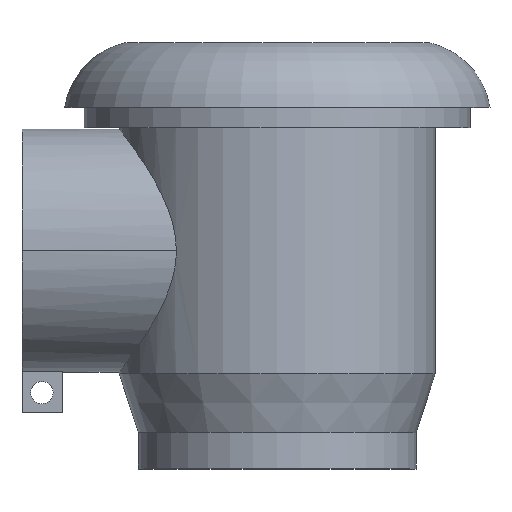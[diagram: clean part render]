
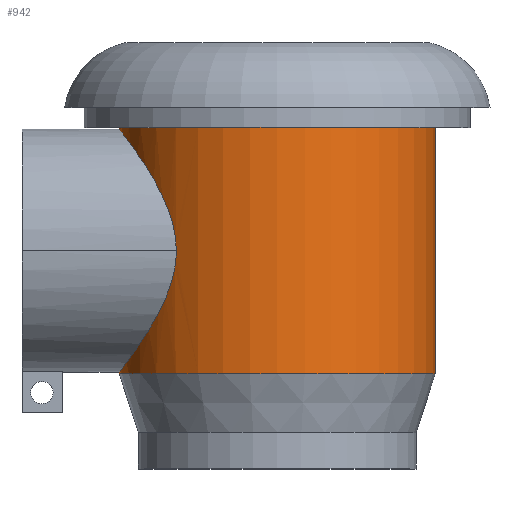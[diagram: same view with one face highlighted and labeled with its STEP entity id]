
A CAD part, top view. The second image highlights one B-rep face of the part: STEP entity #942.
In plain terms, the highlighted cylindrical face has radius 78 mm (diameter 156 mm), a partial arc.
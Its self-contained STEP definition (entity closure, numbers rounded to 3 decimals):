
#175=CARTESIAN_POINT('',(-49.84,0.,
60.));
#176=CARTESIAN_POINT('',(-49.84,0.868,60.));
#177=CARTESIAN_POINT('',(-49.885,2.611,59.962));
#178=CARTESIAN_POINT('',(-50.091,5.238,59.791));
#179=CARTESIAN_POINT('',(-50.438,7.896,59.499));
#180=CARTESIAN_POINT('',(-50.931,10.598,59.078));
#181=CARTESIAN_POINT('',(-51.579,13.375,58.514));
#182=CARTESIAN_POINT('',(-52.392,16.232,57.789));
#183=CARTESIAN_POINT('',(-53.377,19.176,56.882));
#184=CARTESIAN_POINT('',(-54.541,22.211,55.77));
#185=CARTESIAN_POINT('',(-55.875,25.31,54.437));
#186=CARTESIAN_POINT('',(-57.369,28.456,52.863));
#187=CARTESIAN_POINT('',(-58.992,31.598,51.05));
#188=CARTESIAN_POINT('',(-60.711,34.698,48.998));
#189=CARTESIAN_POINT('',(-62.483,37.709,46.721));
#190=CARTESIAN_POINT('',(-64.247,40.562,44.265));
#191=CARTESIAN_POINT('',(-65.969,43.233,41.659));
#192=CARTESIAN_POINT('',(-67.619,45.709,38.925));
#193=CARTESIAN_POINT('',(-69.168,47.969,36.101));
#194=CARTESIAN_POINT('',(-70.601,50.011,33.211));
#195=CARTESIAN_POINT('',(-71.909,51.84,30.274));
#196=CARTESIAN_POINT('',(-73.092,53.468,27.294));
#197=CARTESIAN_POINT('',(-74.143,54.895,24.294));
#198=CARTESIAN_POINT('',(-75.063,56.131,21.279));
#199=CARTESIAN_POINT('',(-75.855,57.185,18.254));
#200=CARTESIAN_POINT('',(-76.524,58.069,15.209));
#201=CARTESIAN_POINT('',(-77.067,58.783,12.158));
#202=CARTESIAN_POINT('',(-77.486,59.331,9.112));
#203=CARTESIAN_POINT('',(-77.783,59.718,6.072));
#204=CARTESIAN_POINT('',(-77.961,59.949,3.03));
#205=CARTESIAN_POINT('',(-78.,60.,1.008));
#206=CARTESIAN_POINT('',(-78.,60.,0.));
#211=CARTESIAN_POINT('',(0.,-60.75,0.));
#212=DIRECTION('',(0.,-1.,0.));
#213=DIRECTION('',(1.,0.,0.));
#214=AXIS2_PLACEMENT_3D('',#211,#212,#213);
#219=CARTESIAN_POINT('',(-78.,-60.,0.));
#220=CARTESIAN_POINT('',(-78.,-60.,1.008));
#221=CARTESIAN_POINT('',(-77.961,-59.949,3.029));
#222=CARTESIAN_POINT('',(-77.783,-59.718,6.072));
#223=CARTESIAN_POINT('',(-77.486,-59.331,9.112));
#224=CARTESIAN_POINT('',(-77.067,-58.783,12.158));
#225=CARTESIAN_POINT('',(-76.524,-58.069,15.209));
#226=CARTESIAN_POINT('',(-75.855,-57.185,18.254));
#227=CARTESIAN_POINT('',(-75.063,-56.131,21.28));
#228=CARTESIAN_POINT('',(-74.143,-54.894,24.294));
#229=CARTESIAN_POINT('',(-73.092,-53.468,27.294));
#230=CARTESIAN_POINT('',(-71.909,-51.84,30.274));
#231=CARTESIAN_POINT('',(-70.601,-50.011,33.212));
#232=CARTESIAN_POINT('',(-69.168,-47.969,36.101));
#233=CARTESIAN_POINT('',(-67.619,-45.709,38.925));
#234=CARTESIAN_POINT('',(-65.968,-43.233,41.659));
#235=CARTESIAN_POINT('',(-64.247,-40.562,44.265));
#236=CARTESIAN_POINT('',(-62.483,-37.708,46.721));
#237=CARTESIAN_POINT('',(-60.711,-34.697,48.998));
#238=CARTESIAN_POINT('',(-58.992,-31.598,51.05));
#239=CARTESIAN_POINT('',(-57.369,-28.456,52.863));
#240=CARTESIAN_POINT('',(-55.875,-25.31,54.437));
#241=CARTESIAN_POINT('',(-54.541,-22.211,55.77));
#242=CARTESIAN_POINT('',(-53.377,-19.177,56.882));
#243=CARTESIAN_POINT('',(-52.392,-16.231,57.789));
#244=CARTESIAN_POINT('',(-51.579,-13.375,58.514));
#245=CARTESIAN_POINT('',(-50.931,-10.598,59.078));
#246=CARTESIAN_POINT('',(-50.438,-7.896,59.499));
#247=CARTESIAN_POINT('',(-50.091,-5.237,59.791));
#248=CARTESIAN_POINT('',(-49.885,-2.61,59.962));
#249=CARTESIAN_POINT('',(-49.84,-0.868,
60.));
#250=CARTESIAN_POINT('',(-49.84,0.,
60.));
#594=DIRECTION('',(0.,1.,0.));
#595=VECTOR('',#594,0.75);
#596=CARTESIAN_POINT('',(-78.,-60.75,0.));
#597=LINE('',#596,#595);
#609=DIRECTION('',(0.,1.,0.));
#610=VECTOR('',#609,121.5);
#611=CARTESIAN_POINT('',(78.,-60.75,0.));
#612=LINE('',#611,#610);
#616=DIRECTION('',(0.,1.,0.));
#617=VECTOR('',#616,0.75);
#618=CARTESIAN_POINT('',(-78.,60.,0.));
#619=LINE('',#618,#617);
#638=CARTESIAN_POINT('',(0.,60.75,0.));
#639=DIRECTION('',(0.,-1.,0.));
#640=DIRECTION('',(1.,0.,0.));
#641=AXIS2_PLACEMENT_3D('',#638,#639,#640);
#786=CARTESIAN_POINT('',(78.,-60.75,0.));
#787=VERTEX_POINT('',#786);
#788=CARTESIAN_POINT('',(78.,60.75,0.));
#789=VERTEX_POINT('',#788);
#802=CARTESIAN_POINT('',(-78.,-60.75,0.));
#803=VERTEX_POINT('',#802);
#812=CARTESIAN_POINT('',(-78.,60.75,0.));
#813=VERTEX_POINT('',#812);
#822=VERTEX_POINT('',#175);
#823=VERTEX_POINT('',#206);
#824=VERTEX_POINT('',#219);
#922=CARTESIAN_POINT('',(0.,123.783,0.));
#923=DIRECTION('',(0.,-1.,0.));
#924=DIRECTION('',(-1.,0.,0.));
#925=AXIS2_PLACEMENT_3D('',#922,#923,#924);
#926=CYLINDRICAL_SURFACE('',#925,78.);
#928=ORIENTED_EDGE('',*,*,#927,.T.);
#930=ORIENTED_EDGE('',*,*,#929,.T.);
#932=ORIENTED_EDGE('',*,*,#931,.F.);
#934=ORIENTED_EDGE('',*,*,#933,.F.);
#935=ORIENTED_EDGE('',*,*,#917,.T.);
#937=ORIENTED_EDGE('',*,*,#936,.T.);
#939=ORIENTED_EDGE('',*,*,#938,.T.);
#940=EDGE_LOOP('',(#928,#930,#932,#934,#935,#937,#939));
#941=FACE_OUTER_BOUND('',#940,.F.);
#207=B_SPLINE_CURVE_WITH_KNOTS('',3,(#175,#176,#177,#178,#179,#180,#181,#182,
#183,#184,#185,#186,#187,#188,#189,#190,#191,#192,#193,#194,#195,#196,#197,#198,
#199,#200,#201,#202,#203,#204,#205,#206),.UNSPECIFIED.,.F.,.F.,(4,1,1,1,1,1,1,1,
1,1,1,1,1,1,1,1,1,1,1,1,1,1,1,1,1,1,1,1,1,4),(0.,0.034,
0.069,0.103,0.138,0.172,
0.207,0.241,0.276,0.31,
0.345,0.379,0.414,0.448,
0.483,0.517,0.552,0.586,
0.621,0.655,0.69,0.724,
0.759,0.793,0.828,0.862,
0.897,0.931,0.966,1.),.UNSPECIFIED.);
#215=CIRCLE('',#214,78.);
#251=B_SPLINE_CURVE_WITH_KNOTS('',3,(#219,#220,#221,#222,#223,#224,#225,#226,
#227,#228,#229,#230,#231,#232,#233,#234,#235,#236,#237,#238,#239,#240,#241,#242,
#243,#244,#245,#246,#247,#248,#249,#250),.UNSPECIFIED.,.F.,.F.,(4,1,1,1,1,1,1,1,
1,1,1,1,1,1,1,1,1,1,1,1,1,1,1,1,1,1,1,1,1,4),(0.,0.034,
0.069,0.103,0.138,0.172,
0.207,0.241,0.276,0.31,
0.345,0.379,0.414,0.448,
0.483,0.517,0.552,0.586,
0.621,0.655,0.69,0.724,
0.759,0.793,0.828,0.862,
0.897,0.931,0.966,1.),.UNSPECIFIED.);
#642=CIRCLE('',#641,78.);
#917=EDGE_CURVE('',#787,#803,#215,.T.);
#927=EDGE_CURVE('',#822,#823,#207,.T.);
#929=EDGE_CURVE('',#823,#813,#619,.T.);
#931=EDGE_CURVE('',#789,#813,#642,.T.);
#933=EDGE_CURVE('',#787,#789,#612,.T.);
#936=EDGE_CURVE('',#803,#824,#597,.T.);
#938=EDGE_CURVE('',#824,#822,#251,.T.);
#942=ADVANCED_FACE('',(#941),#926,.T.);
